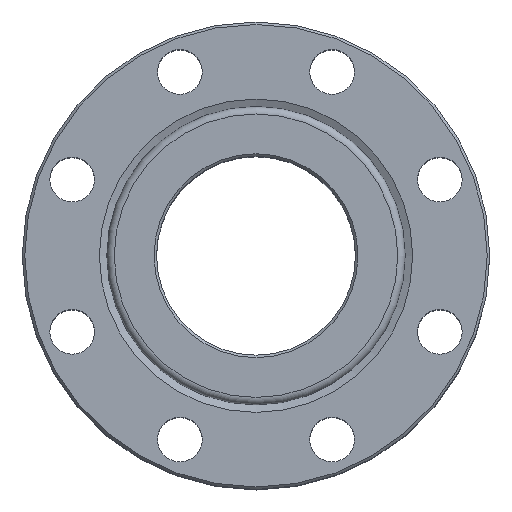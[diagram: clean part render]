
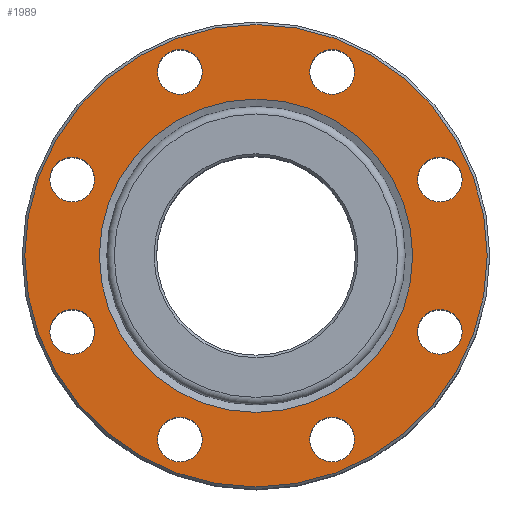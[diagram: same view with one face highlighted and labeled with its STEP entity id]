
A CAD part, top view. The second image highlights one B-rep face of the part: STEP entity #1989.
In plain terms, the highlighted planar face has unit normal (0, 0, 1).
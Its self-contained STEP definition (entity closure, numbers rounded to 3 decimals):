
#69=FACE_BOUND('',#468,.T.);
#70=FACE_BOUND('',#469,.T.);
#71=FACE_BOUND('',#470,.T.);
#72=FACE_BOUND('',#471,.T.);
#73=FACE_BOUND('',#472,.T.);
#74=FACE_BOUND('',#473,.T.);
#75=FACE_BOUND('',#474,.T.);
#76=FACE_BOUND('',#475,.T.);
#77=FACE_BOUND('',#476,.T.);
#110=PLANE('',#2124);
#360=FACE_OUTER_BOUND('',#467,.T.);
#467=EDGE_LOOP('',(#1305));
#468=EDGE_LOOP('',(#1306));
#469=EDGE_LOOP('',(#1307));
#470=EDGE_LOOP('',(#1308));
#471=EDGE_LOOP('',(#1309));
#472=EDGE_LOOP('',(#1310));
#473=EDGE_LOOP('',(#1311));
#474=EDGE_LOOP('',(#1312));
#475=EDGE_LOOP('',(#1313));
#476=EDGE_LOOP('',(#1314));
#671=CIRCLE('',#2121,93.);
#673=CIRCLE('',#2125,9.);
#674=CIRCLE('',#2126,9.);
#675=CIRCLE('',#2127,9.);
#676=CIRCLE('',#2128,9.);
#677=CIRCLE('',#2129,9.);
#678=CIRCLE('',#2130,9.);
#679=CIRCLE('',#2131,9.);
#680=CIRCLE('',#2132,9.);
#681=CIRCLE('',#2133,63.);
#820=VERTEX_POINT('',#2990);
#822=VERTEX_POINT('',#2998);
#823=VERTEX_POINT('',#3000);
#824=VERTEX_POINT('',#3002);
#825=VERTEX_POINT('',#3004);
#826=VERTEX_POINT('',#3006);
#827=VERTEX_POINT('',#3008);
#828=VERTEX_POINT('',#3010);
#829=VERTEX_POINT('',#3012);
#830=VERTEX_POINT('',#3014);
#1011=EDGE_CURVE('',#820,#820,#671,.T.);
#1014=EDGE_CURVE('',#822,#822,#673,.T.);
#1015=EDGE_CURVE('',#823,#823,#674,.T.);
#1016=EDGE_CURVE('',#824,#824,#675,.T.);
#1017=EDGE_CURVE('',#825,#825,#676,.T.);
#1018=EDGE_CURVE('',#826,#826,#677,.T.);
#1019=EDGE_CURVE('',#827,#827,#678,.T.);
#1020=EDGE_CURVE('',#828,#828,#679,.T.);
#1021=EDGE_CURVE('',#829,#829,#680,.T.);
#1022=EDGE_CURVE('',#830,#830,#681,.T.);
#1305=ORIENTED_EDGE('',*,*,#1011,.F.);
#1306=ORIENTED_EDGE('',*,*,#1014,.F.);
#1307=ORIENTED_EDGE('',*,*,#1015,.F.);
#1308=ORIENTED_EDGE('',*,*,#1016,.F.);
#1309=ORIENTED_EDGE('',*,*,#1017,.F.);
#1310=ORIENTED_EDGE('',*,*,#1018,.F.);
#1311=ORIENTED_EDGE('',*,*,#1019,.F.);
#1312=ORIENTED_EDGE('',*,*,#1020,.F.);
#1313=ORIENTED_EDGE('',*,*,#1021,.F.);
#1314=ORIENTED_EDGE('',*,*,#1022,.T.);
#1989=ADVANCED_FACE('',(#360,#69,#70,#71,#72,#73,#74,#75,#76,#77),#110,
 .F.);
#2121=AXIS2_PLACEMENT_3D('',#2992,#2360,#2361);
#2124=AXIS2_PLACEMENT_3D('',#2997,#2367,#2368);
#2125=AXIS2_PLACEMENT_3D('',#2999,#2369,#2370);
#2126=AXIS2_PLACEMENT_3D('',#3001,#2371,#2372);
#2127=AXIS2_PLACEMENT_3D('',#3003,#2373,#2374);
#2128=AXIS2_PLACEMENT_3D('',#3005,#2375,#2376);
#2129=AXIS2_PLACEMENT_3D('',#3007,#2377,#2378);
#2130=AXIS2_PLACEMENT_3D('',#3009,#2379,#2380);
#2131=AXIS2_PLACEMENT_3D('',#3011,#2381,#2382);
#2132=AXIS2_PLACEMENT_3D('',#3013,#2383,#2384);
#2133=AXIS2_PLACEMENT_3D('',#3015,#2385,#2386);
#2360=DIRECTION('center_axis',(0.,0.,-1.));
#2361=DIRECTION('ref_axis',(-1.,0.,0.));
#2367=DIRECTION('center_axis',(0.,0.,-1.));
#2368=DIRECTION('ref_axis',(-1.,0.,0.));
#2369=DIRECTION('center_axis',(0.,0.,1.));
#2370=DIRECTION('ref_axis',(1.,0.,0.));
#2371=DIRECTION('center_axis',(0.,0.,1.));
#2372=DIRECTION('ref_axis',(1.,0.,0.));
#2373=DIRECTION('center_axis',(0.,0.,1.));
#2374=DIRECTION('ref_axis',(1.,0.,0.));
#2375=DIRECTION('center_axis',(0.,0.,1.));
#2376=DIRECTION('ref_axis',(1.,0.,0.));
#2377=DIRECTION('center_axis',(0.,0.,1.));
#2378=DIRECTION('ref_axis',(1.,0.,0.));
#2379=DIRECTION('center_axis',(0.,0.,1.));
#2380=DIRECTION('ref_axis',(1.,0.,0.));
#2381=DIRECTION('center_axis',(0.,0.,1.));
#2382=DIRECTION('ref_axis',(1.,0.,0.));
#2383=DIRECTION('center_axis',(0.,0.,1.));
#2384=DIRECTION('ref_axis',(1.,0.,0.));
#2385=DIRECTION('center_axis',(0.,0.,-1.));
#2386=DIRECTION('ref_axis',(0.,1.,0.));
#2990=CARTESIAN_POINT('',(93.,0.,63.5));
#2992=CARTESIAN_POINT('Origin',(0.,0.,63.5));
#2997=CARTESIAN_POINT('Origin',(0.,0.,63.5));
#2998=CARTESIAN_POINT('',(-82.91,30.615,63.5));
#2999=CARTESIAN_POINT('Origin',(-73.91,30.615,63.5));
#3000=CARTESIAN_POINT('',(-82.91,-30.615,63.5));
#3001=CARTESIAN_POINT('Origin',(-73.91,-30.615,63.5));
#3002=CARTESIAN_POINT('',(-39.615,-73.91,63.5));
#3003=CARTESIAN_POINT('Origin',(-30.615,-73.91,63.5));
#3004=CARTESIAN_POINT('',(21.615,-73.91,63.5));
#3005=CARTESIAN_POINT('Origin',(30.615,-73.91,63.5));
#3006=CARTESIAN_POINT('',(64.91,-30.615,63.5));
#3007=CARTESIAN_POINT('Origin',(73.91,-30.615,63.5));
#3008=CARTESIAN_POINT('',(64.91,30.615,63.5));
#3009=CARTESIAN_POINT('Origin',(73.91,30.615,63.5));
#3010=CARTESIAN_POINT('',(21.615,73.91,63.5));
#3011=CARTESIAN_POINT('Origin',(30.615,73.91,63.5));
#3012=CARTESIAN_POINT('',(-39.615,73.91,63.5));
#3013=CARTESIAN_POINT('Origin',(-30.615,73.91,63.5));
#3014=CARTESIAN_POINT('',(0.,-63.,63.5));
#3015=CARTESIAN_POINT('Origin',(0.,0.,63.5));
